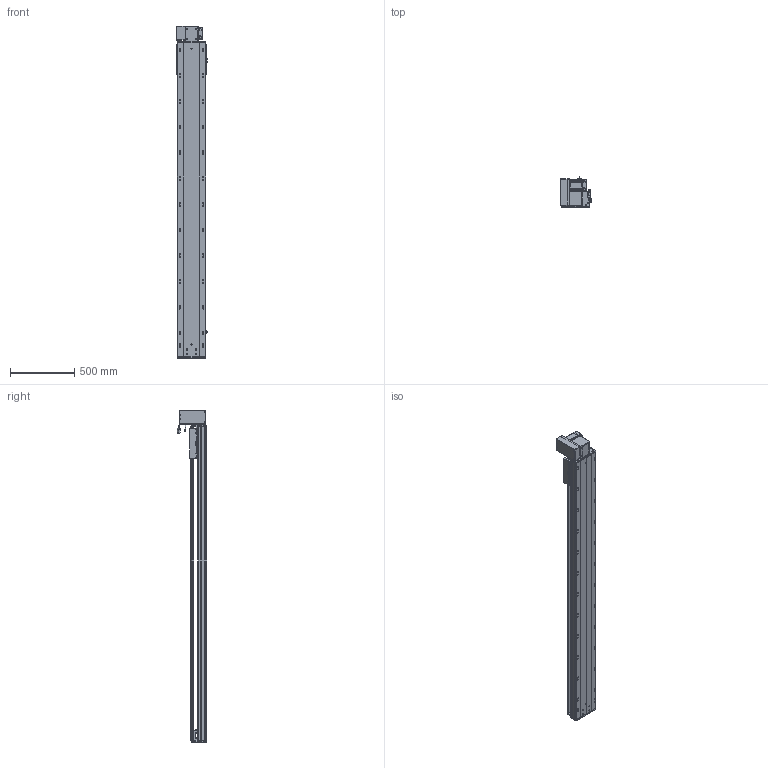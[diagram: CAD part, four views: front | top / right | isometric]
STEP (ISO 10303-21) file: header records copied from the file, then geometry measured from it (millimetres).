
FILE_DESCRIPTION (( 'STEP AP203' ), '1' );
FILE_NAME ('RY220-T-300-UL.SLDASM_2100.step', '2022-07-25T08:35:06', ( '' ), ( '' ), 'SwSTEP 2.0', 'SolidWorks 2016', '' );
FILE_SCHEMA (( 'CONFIG_CONTROL_DESIGN' ));
Length unit declared in the file: millimetre
Products named in the file (14): RY220-T-蛌殏萇儂假蚾啣(750W); RY220翋肮祭謫裔啣; 滅袉蝶18-15; 覜茼ん672; RY220-T-湍謫欶(鍼踢); 110A-T-肮祭謫釱傷裔; RY220-俋离672覜茼んえ; RY220-T-300-UL.SLDASM_2100; 怢湛750W_ECMA-CX0807ES; RY220-T菁釱-300_2100; RY220圉猾敕々湍臏賑輸; RY220-T-300-奻裔啣_2100; RY220翋肮祭謫釱; RY220-同步轮副支撑座6304×2
Assembly tree (18 placements, depth 2):
  RY220-T-300-UL.SLDASM_2100
    RY220-T菁釱-300_2100
    RY220翋肮祭謫釱
    覜茼ん672  x3
    RY220圉猾敕々湍臏賑輸
    RY220-T-300-奻裔啣_2100
    RY220-俋离672覜茼んえ
    滅袉蝶18-15  x3
    RY220翋肮祭謫裔啣  x2
    110A-T-肮祭謫釱傷裔
    怢湛750W_ECMA-CX0807ES
    RY220-T-湍謫欶(鍼踢)
    RY220-T-蛌殏萇儂假蚾啣(750W)
    RY220-同步轮副支撑座6304×2
Bounding box: 239.7 x 231.74 x 2580.5 mm (x, y, z)
Volume: 19377376.7 mm3; surface area: 5900984.6 mm2
Topology: 19 solids, 19 shells, 2852 faces, 7883 edges, 4962 vertices
Faces by surface type: cylinder 1380, plane 1069, cone 321, bspline 56, sphere 16, torus 10
Entity records: 95059 total; most frequent: CARTESIAN_POINT 26941, ORIENTED_EDGE 14106, DIRECTION 13508, EDGE_CURVE 7053, AXIS2_PLACEMENT_3D 4838, VERTEX_POINT 4586, VECTOR 3832, LINE 3832
